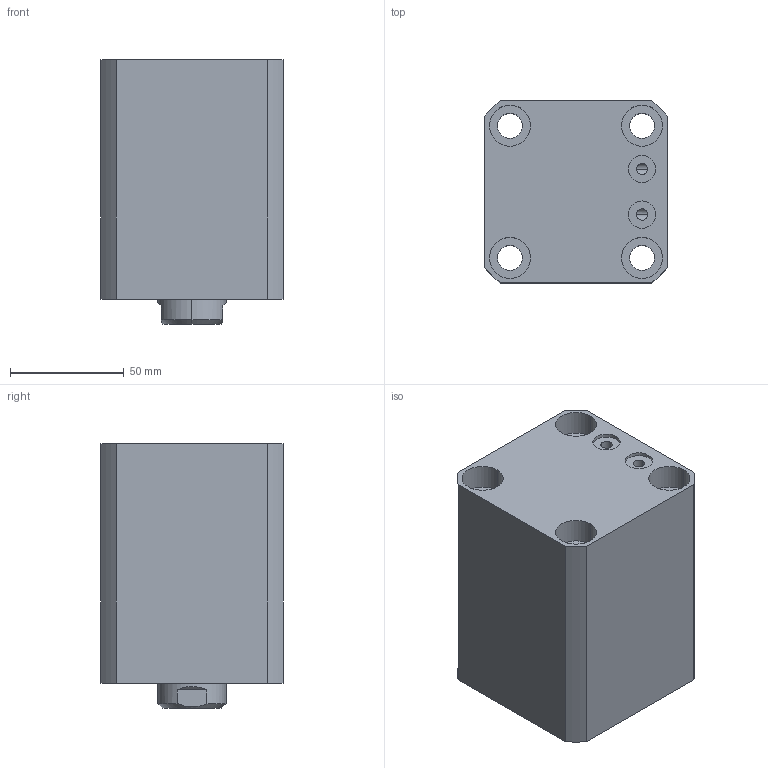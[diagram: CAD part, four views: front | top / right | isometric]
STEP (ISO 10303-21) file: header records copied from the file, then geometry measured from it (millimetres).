
FILE_DESCRIPTION (( 'STEP AP203' ), '1' );
FILE_NAME ('CHTB-SDMB50-45N.STEP', '2018-05-19T05:43:17', ( '' ), ( '' ), 'SwSTEP 2.0', 'SolidWorks 2015', '' );
FILE_SCHEMA (( 'CONFIG_CONTROL_DESIGN' ));
Length unit declared in the file: millimetre
Products named in the file (5): CHTB-SDMB50-45N; 掛极SDMB50-45N; M6; 活塞杆SDMB50-45N; CHTM-SDMA50QG
Assembly tree (5 placements, depth 2):
  CHTB-SDMB50-45N
    掛极SDMB50-45N
    活塞杆SDMB50-45N
    CHTM-SDMA50QG
    M6  x2
Bounding box: 80 x 80 x 116 mm (x, y, z)
Volume: 550764.8 mm3; surface area: 110072.5 mm2
Topology: 5 solids, 5 shells, 263 faces, 693 edges, 458 vertices
Faces by surface type: cylinder 135, plane 55, cone 31, bspline 26, torus 16
Entity records: 13963 total; most frequent: CARTESIAN_POINT 8102, ORIENTED_EDGE 1188, DIRECTION 1016, EDGE_CURVE 594, AXIS2_PLACEMENT_3D 416, VERTEX_POINT 397, EDGE_LOOP 269, ADVANCED_FACE 228
